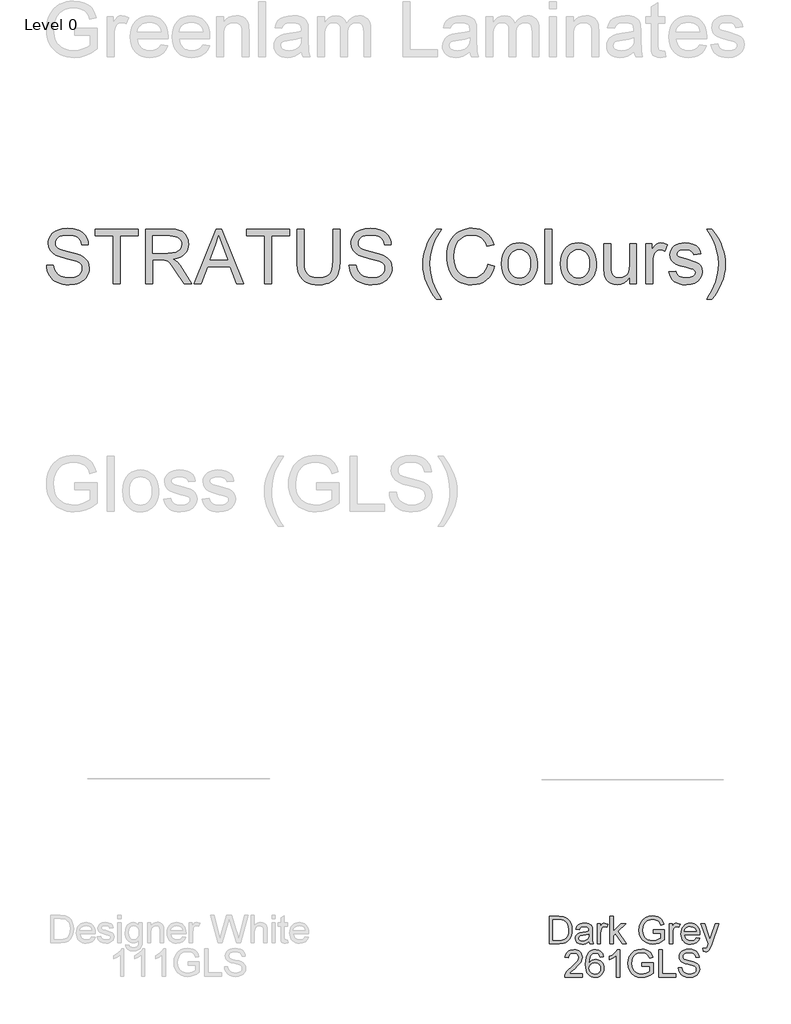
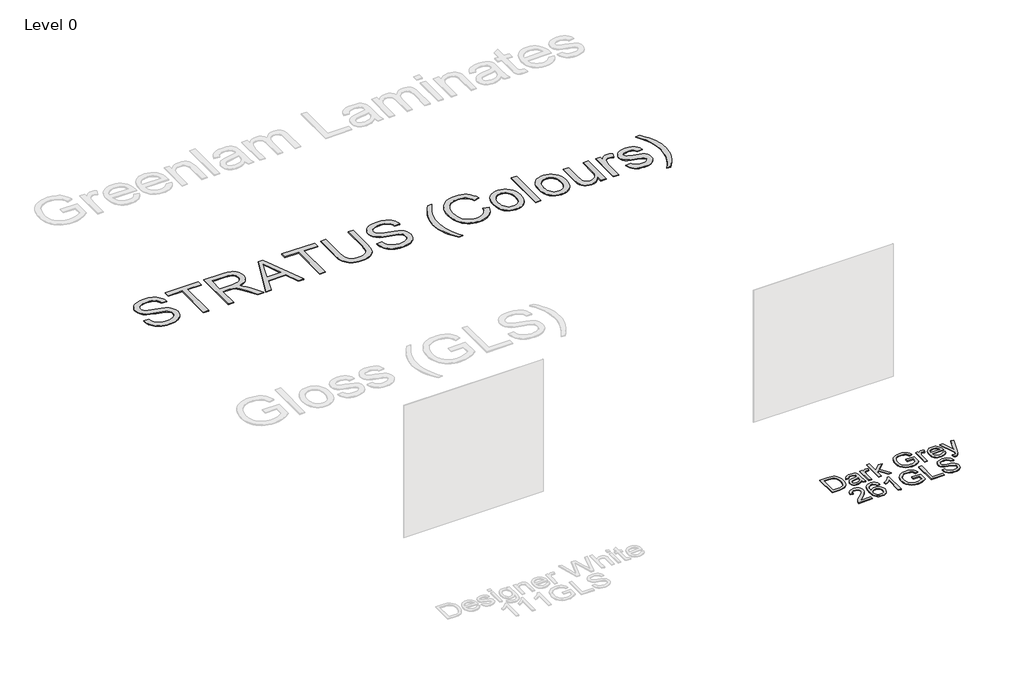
# One storey, part 2 of 3: 2 proxies.
"""IFC4 building model written with IfcOpenShell, lengths in millimetres."""

from ifc_helpers import new_model, si_unit, origin, origin_with_axes, place, context, project, spatial, polyline, outline, extrude, element, save

model = new_model("IFC4")

# Units and contexts
model_context = context("Model", 3, world=origin())
ifc_project = project(units=[si_unit("LENGTHUNIT", "METRE", prefix="MILLI")], contexts=[model_context])

# Site, building, storey
site = spatial("IfcSite", under=ifc_project)
building = spatial("IfcBuilding", under=site)
storey = spatial("IfcBuildingStorey", under=building, Name="Level 0", Elevation=0.0)

# Proxies
placement = place(None, origin())
element("IfcBuildingElementProxy", 1, Name="300mm Arial", ObjectType="300mm Arial", at=placement, inside=storey, context=model_context, shape_type="SweptSolid", body=[
    extrude(outline(polyline([(-5368.8915163, -7002.860494), (-5368.8915163, -6701.4915635), (-5264.9280644, -6701.4915635), (-5211.1437167, -6705.8325711), (-5187.1210225, -6714.2018865), (-5166.8507245, -6727.390456), (-5146.0102095, -6750.3462925), (-5131.166171, -6778.8939353), (-5122.2818208, -6812.4815615), (-5119.3203707, -6850.557348), (-5121.3253276, -6882.9033724), (-5127.3401982, -6911.3682418), (-5136.5004599, -6935.6024682), (-5147.94159, -6955.2565638), (-5161.1117654, -6970.771987), (-5175.4591632, -6982.590196), (-5191.9310795, -6991.3549846), (-5211.4748105, -6997.710146), (-5259.9248693, -7002.860494), (-5368.8915163, -7002.860494)]), holes=[polyline([(-5331.2204, -6965.1893777), (-5264.5601824, -6965.1893777), (-5236.9874269, -6963.8282143), (-5216.0733355, -6959.7447241), (-5200.2911979, -6953.1780305), (-5188.1143038, -6944.3672567), (-5175.0269019, -6928.0608873), (-5165.1952555, -6906.9536578), (-5159.0424292, -6880.9535978), (-5156.991487, -6849.9687368), (-5161.0105978, -6808.9131061), (-5173.0679302, -6778.5996297), (-5190.8826159, -6757.7775088), (-5212.1737863, -6745.1959446), (-5233.8420358, -6740.670996), (-5265.590252, -6739.1626798), (-5331.2204, -6739.1626798), (-5331.2204, -6965.1893777)])]), origin_with_axes(), (0.0, 0.0, 1.0), 10.0),
    extrude(outline(polyline([(-4930.9647892, -6974.6071568), (-4948.9634158, -6990.0398064), (-4967.4954713, -7000.1381672), (-4986.98402, -7005.7115794), (-5007.8521262, -7007.5693835), (-5039.3336279, -7003.0996173), (-5062.5561789, -6989.6903186), (-5076.8759855, -6969.3280501), (-5081.6492544, -6943.9993748), (-5079.8466327, -6928.3827841), (-5074.4387673, -6914.2009331), (-5066.0970431, -6902.0608273), (-5055.4928446, -6892.5694718), (-5029.1157055, -6880.2086368), (-4996.5213608, -6874.5432541), (-4958.0041159, -6868.5835657), (-4931.1855184, -6861.5938078), (-4930.9647892, -6853.2060983), (-4933.5583573, -6836.3938912), (-4941.3390615, -6825.3942195), (-4958.7398798, -6817.2272392), (-4982.9833033, -6814.5049125), (-5005.424105, -6816.3167313), (-5021.095878, -6821.7521878), (-5031.78285, -6831.8045633), (-5039.2692486, -6847.4671392), (-5076.9403649, -6842.7582497), (-5070.4012624, -6822.156858), (-5060.6431925, -6805.9700502), (-5046.7556472, -6793.590821), (-5027.8281185, -6784.4121652), (-5004.679144, -6778.7283884), (-4978.127261, -6776.8337961), (-4952.6606299, -6778.5076592), (-4932.4731054, -6783.5292485), (-4917.2519878, -6791.0800264), (-4906.6845775, -6800.3414556), (-4899.6764255, -6811.7917827), (-4895.1330829, -6825.9092543), (-4893.2936729, -6858.8714811), (-4893.2936729, -6905.7396473), (-4891.3806865, -6971.1858542), (-4883.8758938, -7002.860494), (-4921.5470101, -7002.860494), (-4930.9647892, -6974.6071568)]), holes=[polyline([(-4930.9647892, -6899.2649241), (-4991.7388948, -6910.8164188), (-5024.1492986, -6916.9232599), (-5038.8277902, -6926.8560738), (-5043.9781381, -6941.3506244), (-5041.1730379, -6952.5526311), (-5032.7577373, -6961.7312869), (-5018.9161772, -6967.8565221), (-4999.8322987, -6969.8982672), (-4979.598789, -6967.64499), (-4961.719724, -6960.8851583), (-4947.2251734, -6950.9247533), (-4937.1452067, -6939.069756), (-4932.6754405, -6926.8560738), (-4931.1855184, -6909.933502), (-4930.9647892, -6899.2649241)])]), origin_with_axes(), (0.0, 0.0, 1.0), 10.0),
    extrude(outline(polyline([(-4841.495888, -7002.860494), (-4841.495888, -6781.5426857), (-4808.5336612, -6781.5426857), (-4808.5336612, -6814.2841833), (-4796.3567672, -6795.3014723), (-4785.1363663, -6784.1178596), (-4773.8791773, -6778.654812), (-4761.5919186, -6776.8337961), (-4742.8299369, -6779.7400639), (-4723.7736495, -6788.4588672), (-4736.3552138, -6822.2304343), (-4749.5989656, -6816.4362929), (-4762.8427174, -6814.5049125), (-4774.0907094, -6816.3627165), (-4784.1430849, -6821.9361288), (-4792.26408, -6830.8020848), (-4797.7179306, -6842.5375205), (-4802.2980614, -6863.5803706), (-4803.8247717, -6886.5362071), (-4803.8247717, -7002.860494), (-4841.495888, -7002.860494)])), origin_with_axes(), (0.0, 0.0, 1.0), 10.0),
    extrude(outline(polyline([(-4700.2292018, -7002.860494), (-4700.2292018, -6701.4915635), (-4662.5580855, -6701.4915635), (-4662.5580855, -6863.4332178), (-4578.0923794, -6781.5426857), (-4526.0002889, -6781.5426857), (-4611.4960646, -6864.4632874), (-4521.2913994, -7002.860494), (-4565.290086, -7002.860494), (-4638.498603, -6890.6564855), (-4662.5580855, -6913.9802039), (-4662.5580855, -7002.860494), (-4700.2292018, -7002.860494)])), origin_with_axes(), (0.0, 0.0, 1.0), 10.0),
    extrude(outline(polyline([(-4224.6313585, -6885.1382555), (-4224.6313585, -6847.4671392), (-4102.2002305, -6847.4671392), (-4102.2002305, -6960.1126061), (-4131.9526868, -6980.8059684), (-4162.6432423, -6995.6500069), (-4194.1983204, -7004.5895394), (-4226.5443448, -7007.5693835), (-4268.804789, -7002.8329028), (-4307.0001372, -6988.6234608), (-4338.7299593, -6965.437698), (-4361.5938253, -6933.7722553), (-4375.4169912, -6895.7884393), (-4380.0247132, -6853.6475567), (-4375.4353853, -6811.2031715), (-4361.6674017, -6771.7202364), (-4339.2909793, -6738.6016598), (-4308.8763354, -6715.2503502), (-4271.8306185, -6701.399593), (-4229.5609772, -6696.782674), (-4198.5301309, -6699.4590155), (-4170.6262816, -6707.4880401), (-4147.1278191, -6720.2903335), (-4129.3131335, -6737.2864817), (-4116.133761, -6759.295022), (-4106.541238, -6787.134492), (-4141.2692984, -6796.9201531), (-4149.0224114, -6777.0637224), (-4158.4493875, -6762.0817281), (-4170.9205872, -6750.7877509), (-4187.8063708, -6741.9953712), (-4207.9387129, -6736.3391855), (-4230.1495884, -6734.4537903), (-4256.1496484, -6736.4863383), (-4278.378918, -6742.5839824), (-4296.7546236, -6751.9833674), (-4311.1939919, -6763.9211381), (-4330.5813731, -6792.9470275), (-4339.410541, -6821.3843058), (-4342.3535969, -6852.1024524), (-4338.8127327, -6888.1272967), (-4328.1901401, -6917.7693885), (-4310.8077158, -6940.8171955), (-4286.9873567, -6957.0591856), (-4259.1110985, -6966.6884968), (-4229.5609772, -6969.8982672), (-4203.4689467, -6967.4794431), (-4178.0207097, -6960.2229707), (-4155.9201988, -6950.2257775), (-4139.8713468, -6939.5847908), (-4139.8713468, -6885.1382555), (-4224.6313585, -6885.1382555)])), origin_with_axes(), (0.0, 0.0, 1.0), 10.0),
    extrude(outline(polyline([(-4045.693556, -7002.860494), (-4045.693556, -6781.5426857), (-4012.7313292, -6781.5426857), (-4012.7313292, -6814.2841833), (-4000.5544352, -6795.3014723), (-3989.3340344, -6784.1178596), (-3978.0768453, -6778.654812), (-3965.7895867, -6776.8337961), (-3947.0276049, -6779.7400639), (-3927.9713176, -6788.4588672), (-3940.5528818, -6822.2304343), (-3953.7966336, -6816.4362929), (-3967.0403854, -6814.5049125), (-3978.2883775, -6816.3627165), (-3988.340753, -6821.9361288), (-3996.461748, -6830.8020848), (-4001.9155986, -6842.5375205), (-4006.4957294, -6863.5803706), (-4008.0224397, -6886.5362071), (-4008.0224397, -7002.860494), (-4045.693556, -7002.860494)])), origin_with_axes(), (0.0, 0.0, 1.0), 10.0),
    extrude(outline(polyline([(-3749.4749735, -6936.9360404), (-3712.5396212, -6941.64493), (-3725.8477524, -6969.4752029), (-3747.0837405, -6990.2789297), (-3775.7693391, -7003.2467701), (-3811.4263015, -7007.5693835), (-3834.8006038, -7005.7046817), (-3855.6273232, -7000.1105761), (-3873.9064598, -6990.7870668), (-3889.6380137, -6977.7341537), (-3902.2885558, -6961.3151204), (-3911.3246573, -6941.8932503), (-3916.7463182, -6919.4685435), (-3918.5535385, -6894.0409998), (-3916.7279241, -6867.7512327), (-3911.2510809, -6844.5792656), (-3902.1230089, -6824.5250983), (-3889.3437081, -6807.5887309), (-3873.653541, -6794.133447), (-3855.7928701, -6784.5225298), (-3835.7616955, -6778.7559796), (-3813.5600171, -6776.8337961), (-3792.0734093, -6778.751381), (-3772.6423421, -6784.5041357), (-3755.2668157, -6794.0920602), (-3739.9468298, -6807.5151545), (-3727.4411413, -6824.4147337), (-3718.5085066, -6844.4321128), (-3713.1489257, -6867.5672917), (-3711.3623988, -6893.8202706), (-3711.583128, -6903.9738137), (-3880.8824222, -6903.9738137), (-3874.3617138, -6932.1719686), (-3859.2141727, -6952.902119), (-3837.3527851, -6965.6492302), (-3810.6905375, -6969.8982672), (-3790.6409688, -6967.9300985), (-3773.7551852, -6962.0255925), (-3760.0331868, -6951.8168672), (-3749.4749735, -6936.9360404)]), holes=[polyline([(-3880.8824222, -6866.3026974), (-3749.0335151, -6866.3026974), (-3754.1286807, -6846.4002814), (-3764.1166769, -6832.1632482), (-3786.079232, -6818.9194964), (-3813.7071699, -6814.5049125), (-3839.1002246, -6818.0273826), (-3860.0970895, -6828.5947929), (-3874.6928076, -6845.0667092), (-3880.8824222, -6866.3026974)])]), origin_with_axes(), (0.0, 0.0, 1.0), 10.0),
    extrude(outline(polyline([(-3673.6912825, -7087.6205057), (-3678.400172, -7051.3473409), (-3659.2703083, -7054.6582789), (-3641.3912433, -7050.5012124), (-3630.4283599, -7038.9129295), (-3620.127664, -7011.1746271), (-3617.184608, -7002.0511536), (-3697.2357302, -6781.5426857), (-3657.5044747, -6781.5426857), (-3615.0508925, -6904.4152721), (-3600.2620363, -6953.5643066), (-3585.4731801, -6910.1542312), (-3541.8423754, -6781.5426857), (-3502.4054255, -6781.5426857), (-3579.4399153, -7008.1579947), (-3599.4526959, -7057.3070293), (-3609.6982094, -7072.9971964), (-3621.3048864, -7083.8681093), (-3634.7877615, -7090.2140737), (-3650.6618696, -7092.3293952), (-3673.6912825, -7087.6205057)])), origin_with_axes(), (0.0, 0.0, 1.0), 10.0),
    extrude(outline(polyline([(-5001.5981323, -7331.1138312), (-5001.5981323, -7368.7849475), (-5199.3714929, -7368.7849475), (-5195.3247909, -7342.8124787), (-5186.0357706, -7322.5145896), (-5172.4425308, -7302.8237058), (-5152.7792382, -7282.213117), (-5125.2800591, -7259.156113), (-5084.6290986, -7223.0484951), (-5060.2385223, -7196.3954446), (-5048.0432342, -7174.7639833), (-5043.9781381, -7153.7211331), (-5047.8133079, -7134.8579838), (-5059.3188173, -7119.1770138), (-5077.0047442, -7108.6096035), (-5099.3811666, -7105.0871334), (-5122.879629, -7108.52683), (-5141.1357731, -7118.84592), (-5152.917194, -7135.2350629), (-5156.991487, -7156.8849183), (-5194.6626034, -7152.1760288), (-5185.5299328, -7115.7373171), (-5176.9835742, -7101.2013798), (-5165.7838667, -7089.1210548), (-5152.1883277, -7079.6251008), (-5136.4544747, -7072.8422765), (-5098.5718262, -7067.4160171), (-5078.3820025, -7068.9243332), (-5060.4132663, -7073.4492818), (-5044.6656176, -7080.9908627), (-5031.1390565, -7091.549076), (-5020.2750413, -7104.3421723), (-5012.5150305, -7118.5884026), (-5007.859024, -7134.2877667), (-5006.3070218, -7151.4402648), (-5007.9808849, -7169.4572855), (-5013.0024741, -7187.1616065), (-5021.9144155, -7205.1694302), (-5035.2593348, -7224.0969588), (-5056.5321112, -7246.6941104), (-5089.2276235, -7275.7108027), (-5132.5641226, -7311.9471793), (-5149.5602707, -7331.1138312), (-5001.5981323, -7331.1138312)])), origin_with_axes(), (0.0, 0.0, 1.0), 10.0),
    extrude(outline(polyline([(-4770.8625449, -7147.4671392), (-4808.5336612, -7152.1760288), (-4814.6037141, -7133.5060175), (-4822.8074826, -7120.7589064), (-4839.8956013, -7109.0050766), (-4860.5521753, -7105.0871334), (-4878.0633583, -7107.3680017), (-4894.5444717, -7114.2106069), (-4908.6987315, -7128.622384), (-4920.2594232, -7148.4604206), (-4928.0677185, -7176.5206198), (-4930.9647892, -7215.5988847), (-4915.8540363, -7197.9681401), (-4897.745045, -7185.5429257), (-4877.6494911, -7178.1760888), (-4856.5790498, -7175.7204764), (-4838.4792556, -7177.3989381), (-4821.777413, -7182.4343229), (-4806.473522, -7190.8266309), (-4792.5675826, -7202.5758621), (-4781.0114895, -7216.9830407), (-4772.7571372, -7233.349191), (-4767.8045258, -7251.6743129), (-4766.1536554, -7271.9584064), (-4769.2622582, -7298.9333537), (-4778.5880668, -7323.9401323), (-4793.3585289, -7345.1485293), (-4812.8010924, -7360.7283318), (-4836.0328404, -7370.3024607), (-4862.1708561, -7373.4938371), (-4884.6277527, -7371.3785156), (-4904.9095469, -7365.0325512), (-4923.0162389, -7354.4559438), (-4938.9478285, -7339.6486935), (-4951.9363622, -7319.9854009), (-4961.2138863, -7294.8406665), (-4966.7804007, -7264.2144904), (-4968.6359055, -7228.1068726), (-4966.5757663, -7187.6260575), (-4960.3953488, -7153.0773396), (-4950.094653, -7124.4607189), (-4935.6736787, -7101.7761954), (-4920.0432925, -7086.7436174), (-4901.9205057, -7076.0060617), (-4881.3053184, -7069.5635282), (-4858.1977306, -7067.4160171), (-4825.1435333, -7072.7319119), (-4798.6744237, -7088.6795964), (-4780.1331712, -7114.0082718), (-4770.8625449, -7147.4671392)]), holes=[polyline([(-4930.9647892, -7271.3697952), (-4928.7850884, -7288.0624407), (-4922.2459859, -7304.0009282), (-4912.0924429, -7317.7045325), (-4899.0694202, -7327.6925287), (-4883.351662, -7333.7901727), (-4865.1139121, -7335.8227207), (-4840.2542862, -7331.6104719), (-4820.7105553, -7318.9737254), (-4808.0462176, -7299.1080976), (-4803.8247717, -7273.2092052), (-4807.9910353, -7248.3495793), (-4820.4898261, -7229.3944595), (-4840.3646508, -7217.3923095), (-4866.6590165, -7213.3915928), (-4891.4818541, -7217.3923095), (-4912.2395957, -7229.3944595), (-4926.2834908, -7247.8897269), (-4930.9647892, -7271.3697952)])]), origin_with_axes(), (0.0, 0.0, 1.0), 10.0),
    extrude(outline(polyline([(-4591.9247425, -7368.7849475), (-4629.5958588, -7368.7849475), (-4629.5958588, -7133.9290818), (-4665.2804123, -7159.3497277), (-4704.9380914, -7178.3692268), (-4704.9380914, -7142.7582497), (-4675.3511819, -7126.6634124), (-4649.7190039, -7107.5151545), (-4629.5130853, -7087.1528861), (-4616.2049541, -7067.4160171), (-4591.9247425, -7067.4160171), (-4591.9247425, -7368.7849475)])), origin_with_axes(), (0.0, 0.0, 1.0), 10.0),
    extrude(outline(polyline([(-4347.0624865, -7251.0627091), (-4347.0624865, -7213.3915928), (-4224.6313585, -7213.3915928), (-4224.6313585, -7326.0370597), (-4254.3838148, -7346.7304219), (-4285.0743703, -7361.5744604), (-4316.6294484, -7370.5139929), (-4348.9754728, -7373.4938371), (-4391.235917, -7368.7573564), (-4429.4312652, -7354.5479143), (-4461.1610873, -7331.3621516), (-4484.0249533, -7299.6967088), (-4497.8481192, -7261.7128928), (-4502.4558412, -7219.5720103), (-4497.8665133, -7177.1276251), (-4484.0985297, -7137.6446899), (-4461.7221073, -7104.5261133), (-4431.3074634, -7081.1748037), (-4394.2617464, -7067.3240466), (-4351.9921052, -7062.7071275), (-4320.9612589, -7065.383469), (-4293.0574096, -7073.4124936), (-4269.5589471, -7086.214787), (-4251.7442615, -7103.2109352), (-4238.564889, -7125.2194756), (-4228.972366, -7153.0589455), (-4263.7004264, -7162.8446066), (-4271.4535394, -7142.9881759), (-4280.8805155, -7128.0061817), (-4293.3517152, -7116.7122044), (-4310.2374987, -7107.9198247), (-4330.3698409, -7102.2636391), (-4352.5807164, -7100.3782438), (-4378.5807764, -7102.4107919), (-4400.810046, -7108.5084359), (-4419.1857516, -7117.9078209), (-4433.6251199, -7129.8455916), (-4453.0125011, -7158.8714811), (-4461.841669, -7187.3087593), (-4464.7847249, -7218.0269059), (-4461.2438607, -7254.0517503), (-4450.6212681, -7283.693842), (-4433.2388438, -7306.741649), (-4409.4184846, -7322.9836391), (-4381.5422265, -7332.6129503), (-4351.9921052, -7335.8227207), (-4325.9000747, -7333.4038966), (-4300.4518377, -7326.1474243), (-4278.3513268, -7316.1502311), (-4262.3024748, -7305.5092443), (-4262.3024748, -7251.0627091), (-4347.0624865, -7251.0627091)])), origin_with_axes(), (0.0, 0.0, 1.0), 10.0),
    extrude(outline(polyline([(-4163.4157945, -7368.7849475), (-4163.4157945, -7067.4160171), (-4125.7446782, -7067.4160171), (-4125.7446782, -7331.1138312), (-3975.0602129, -7331.1138312), (-3975.0602129, -7368.7849475), (-4163.4157945, -7368.7849475)])), origin_with_axes(), (0.0, 0.0, 1.0), 10.0),
    extrude(outline(polyline([(-3946.8068757, -7265.1893777), (-3909.1357594, -7265.1893777), (-3904.813146, -7286.0942721), (-3896.9956536, -7302.8972822), (-3884.8003654, -7316.2330045), (-3867.3443648, -7326.7360355), (-3846.007209, -7333.5510494), (-3822.1684557, -7335.8227207), (-3801.1807879, -7334.1028724), (-3782.8050823, -7328.9433274), (-3767.9150585, -7320.7763471), (-3757.3844364, -7310.0341929), (-3751.1212454, -7297.700949), (-3749.0335151, -7284.7606998), (-3750.5970136, -7272.1515444), (-3755.287509, -7261.2530403), (-3764.8156527, -7251.9548229), (-3780.8920959, -7244.1465276), (-3835.7433014, -7229.7623415), (-3871.7497516, -7220.2433949), (-3894.7883616, -7211.1843008), (-3913.5411463, -7198.510766), (-3926.8308834, -7183.1516928), (-3934.7495433, -7165.4381747), (-3937.3890966, -7145.7013056), (-3934.1241439, -7123.637583), (-3924.3292858, -7103.0637824), (-3908.2620397, -7085.6261758), (-3886.1799229, -7072.9710352), (-3859.6740252, -7065.2731044), (-3830.335436, -7062.7071275), (-3798.5504317, -7065.3926661), (-3770.7385528, -7073.4492818), (-3747.8930809, -7086.7114277), (-3731.0072973, -7105.013557), (-3720.3203254, -7127.2152354), (-3716.0712883, -7152.1760288), (-3753.7424046, -7152.1760288), (-3760.6585862, -7129.6984389), (-3775.0795604, -7113.4748429), (-3797.6123326, -7103.6523936), (-3828.8639081, -7100.3782438), (-3860.8512475, -7103.6156054), (-3882.7954086, -7113.3276901), (-3895.4873374, -7127.6199056), (-3899.7179803, -7144.5976597), (-3896.7197421, -7159.0738162), (-3887.7250273, -7170.7172813), (-3866.461448, -7181.1283418), (-3826.2151577, -7191.7601314), (-3784.6812804, -7201.8584922), (-3759.5549402, -7210.669266), (-3738.0798287, -7224.3360821), (-3723.0978344, -7241.2034716), (-3714.2962577, -7261.0874934), (-3711.3623988, -7283.8042066), (-3714.7377161, -7307.0267576), (-3724.863668, -7328.869751), (-3741.3263873, -7347.668521), (-3763.7120067, -7361.7584014), (-3790.6317717, -7370.5599781), (-3820.6969278, -7373.4938371), (-3857.6046889, -7370.3300519), (-3887.9825447, -7360.8386964), (-3912.1799829, -7344.9829824), (-3930.5464915, -7322.7261217), (-3942.3371095, -7295.6132187), (-3946.8068757, -7265.1893777)])), origin_with_axes(), (0.0, 0.0, 1.0), 10.0),
])
element("IfcBuildingElementProxy", 2, Name="600mm Arial", ObjectType="600mm Arial", at=placement, inside=storey, context=model_context, shape_type="SweptSolid", body=[
    extrude(outline(polyline([(-10905.7165225, 467.3190924), (-10830.3742899, 467.3190924), (-10821.729063, 425.5093036), (-10806.0940782, 391.9032833), (-10781.7035019, 365.2318387), (-10746.7915006, 344.2257768), (-10704.1171891, 330.5957488), (-10656.4396825, 326.0524062), (-10614.4643469, 329.4921029), (-10577.7129356, 339.8111928), (-10547.9328881, 356.1451534), (-10526.8716438, 377.6294619), (-10514.3452619, 402.2959497), (-10510.1698013, 428.1764481), (-10513.2967982, 453.3947588), (-10522.6777891, 475.1917671), (-10541.7340764, 493.7882019), (-10573.8869628, 509.4047926), (-10683.5893738, 538.1731646), (-10755.6022743, 557.2110579), (-10801.6794942, 575.3292461), (-10839.1850636, 600.6763156), (-10865.7645378, 631.3944622), (-10881.6018577, 666.8214983), (-10886.8809643, 706.2952364), (-10885.248488, 728.7314396), (-10880.3510589, 750.4226817), (-10872.1886771, 771.3689628), (-10860.7613427, 791.5702829), (-10846.1978142, 810.203506), (-10828.6268504, 826.445496), (-10808.0484513, 840.2962532), (-10784.4626169, 851.7557773), (-10731.4508214, 867.1516388), (-10672.7736431, 872.2835926), (-10609.2036344, 866.9125155), (-10553.5798767, 850.7992841), (-10529.2444827, 838.797134), (-10507.8889329, 824.2749923), (-10489.5132272, 807.2328588), (-10474.1173657, 787.6707338), (-10461.82091, 766.1588341), (-10452.7434218, 743.2673769), (-10446.884901, 718.9963623), (-10444.2453477, 693.3457902), (-10519.5875803, 693.3457902), (-10524.6275637, 717.3868786), (-10533.4199434, 738.30097), (-10545.9647194, 756.0880645), (-10562.2618918, 770.748162), (-10582.6149632, 782.2076861), (-10607.3274362, 790.3930605), (-10636.3993109, 795.3042852), (-10669.8305872, 796.94136), (-10704.3287213, 795.3226793), (-10733.8052661, 790.4666369), (-10758.2602218, 782.373233), (-10777.6935881, 771.0424676), (-10792.5008385, 757.4216367), (-10803.0774458, 742.4580365), (-10809.4234102, 726.1516671), (-10811.5387317, 708.5025284), (-10810.0396126, 693.318199), (-10805.5422552, 679.5502154), (-10798.0466595, 667.1985774), (-10787.5528256, 656.2632851), (-10771.034924, 645.9074069), (-10745.025667, 635.4411642), (-10664.5330864, 614.1775848), (-10581.4653319, 593.9808633), (-10531.2126514, 576.3593157), (-10488.2624284, 549.0256835), (-10471.6571549, 532.9584373), (-10458.2984399, 515.2909045), (-10448.0299337, 496.1150555), (-10440.6952865, 475.5228608), (-10434.8275686, 430.0894344), (-10436.5152273, 406.5219941), (-10441.5782033, 383.6443326), (-10450.0164965, 361.4564497), (-10461.8301071, 339.9583456), (-10476.8121013, 319.9823533), (-10494.7555457, 302.3608057), (-10515.66044, 287.0937029), (-10539.5267845, 274.1810449), (-10565.6602017, 263.9125387), (-10593.3663145, 256.5778914), (-10653.4966266, 250.7101736), (-10692.0368641, 252.2920662), (-10727.3121489, 257.0377439), (-10759.322481, 264.9472068), (-10788.0678604, 276.0204549), (-10813.7230311, 290.2758822), (-10836.4627369, 307.7318828), (-10856.2869779, 328.3884569), (-10873.1957541, 352.2456043), (-10886.816585, 378.5307728), (-10896.77699, 406.4714104), (-10903.0769692, 436.0675169), (-10905.7165225, 467.3190924)])), origin_with_axes(), (0.0, 0.0, 1.0), 10.0),
    extrude(outline(polyline([(-10171.1297545, 260.1279527), (-10171.1297545, 787.523581), (-10368.9031151, 787.523581), (-10368.9031151, 862.8658136), (-9898.0141613, 862.8658136), (-9898.0141613, 787.523581), (-10095.7875219, 787.523581), (-10095.7875219, 260.1279527), (-10171.1297545, 260.1279527)])), origin_with_axes(), (0.0, 0.0, 1.0), 10.0),
    extrude(outline(polyline([(-9813.2541496, 260.1279527), (-9813.2541496, 862.8658136), (-9553.529461, 862.8658136), (-9483.7238524, 858.8007175), (-9432.937743, 846.6054294), (-9413.3388297, 836.9117388), (-9395.8184497, 824.0910513), (-9380.3766029, 808.1433668), (-9367.0132894, 789.0686853), (-9356.2297485, 767.892478), (-9348.5272192, 745.6402158), (-9343.9057016, 722.3118988), (-9342.3651958, 697.9075269), (-9344.9173771, 666.950257), (-9352.5739211, 638.5313729), (-9365.3348278, 612.6508745), (-9383.2000972, 589.308762), (-9406.3996556, 569.2499962), (-9435.1634291, 553.2195382), (-9469.4914177, 541.2173881), (-9509.3836216, 533.2435459), (-9484.5515869, 517.0199499), (-9466.5621573, 501.0170831), (-9435.6968579, 464.4128246), (-9405.4937461, 423.4675585), (-9304.9883851, 260.1279527), (-9392.5442999, 260.1279527), (-9470.9767413, 385.0606782), (-9527.6305685, 467.7605507), (-9548.6918128, 491.8752155), (-9567.4354004, 506.8296186), (-9603.2671067, 521.1770164), (-9646.9714878, 523.8257668), (-9737.911917, 523.8257668), (-9737.911917, 260.1279527), (-9813.2541496, 260.1279527)]), holes=[polyline([(-9737.911917, 599.1679994), (-9569.2748104, 599.1679994), (-9520.8431457, 601.8351439), (-9483.2639999, 609.8365773), (-9454.9738745, 623.7057285), (-9434.409271, 643.9760264), (-9421.882889, 668.4953614), (-9417.7074284, 695.1116238), (-9419.6985897, 714.3794433), (-9425.6720736, 731.8630351), (-9435.6278801, 747.5623992), (-9449.5660092, 761.4775357), (-9467.8083576, 772.8726805), (-9490.6768221, 781.0120696), (-9518.1714027, 785.8957031), (-9550.2920994, 787.523581), (-9737.911917, 787.523581), (-9737.911917, 599.1679994)])]), origin_with_axes(), (0.0, 0.0, 1.0), 10.0),
    extrude(outline(polyline([(-9280.7081734, 260.1279527), (-9040.1133485, 862.8658136), (-8975.9547286, 862.8658136), (-8735.3599037, 260.1279527), (-8814.9695675, 260.1279527), (-8883.9842298, 448.4835342), (-9132.2310001, 448.4835342), (-9201.0985096, 260.1279527), (-9280.7081734, 260.1279527)]), holes=[polyline([(-9104.5662741, 523.8257668), (-8911.501803, 523.8257668), (-8965.8011855, 672.0086345), (-9008.0340386, 787.523581), (-9045.5580021, 684.9580807), (-9104.5662741, 523.8257668)])]), origin_with_axes(), (0.0, 0.0, 1.0), 10.0),
    extrude(outline(polyline([(-8504.182858, 260.1279527), (-8504.182858, 787.523581), (-8701.9562186, 787.523581), (-8701.9562186, 862.8658136), (-8231.0672647, 862.8658136), (-8231.0672647, 787.523581), (-8428.8406253, 787.523581), (-8428.8406253, 260.1279527), (-8504.182858, 260.1279527)])), origin_with_axes(), (0.0, 0.0, 1.0), 10.0),
    extrude(outline(polyline([(-7750.7605318, 862.8658136), (-7675.4182992, 862.8658136), (-7675.4182992, 515.1437517), (-7680.531859, 433.7130721), (-7686.9238086, 400.0196799), (-7695.8725382, 371.007586), (-7708.1505997, 345.5777431), (-7724.5305456, 322.6311037), (-7745.0123757, 302.1676677), (-7769.59609, 284.1874352), (-7798.3092797, 269.5411332), (-7831.179536, 259.079489), (-7868.2068588, 252.8025024), (-7909.3912482, 250.7101736), (-7949.5593635, 252.5311895), (-7985.8923091, 257.9942371), (-8018.3900848, 267.0993165), (-8047.0526907, 279.8464276), (-8071.8847254, 296.047031), (-8092.8907873, 315.512587), (-8110.0708765, 338.2430958), (-8123.4249929, 364.2385573), (-8133.4359817, 394.3910853), (-8140.586688, 429.5927937), (-8144.8771118, 469.8436825), (-8146.307253, 515.1437517), (-8146.307253, 862.8658136), (-8070.9650204, 862.8658136), (-8070.9650204, 517.7925021), (-8067.2494123, 450.0838209), (-8056.1025878, 402.9397432), (-8047.3377993, 385.5619175), (-8035.9058663, 370.2902161), (-8021.8067888, 357.1246392), (-8005.0405669, 346.0651867), (-7964.7942766, 331.0556013), (-7916.4545825, 326.0524062), (-7874.9299023, 328.5264126), (-7839.8247629, 335.9484319), (-7811.1391643, 348.318464), (-7788.8731065, 365.6365089), (-7772.1988551, 389.990297), (-7760.2886755, 423.4675585), (-7753.1425678, 466.0682936), (-7750.7605318, 517.7925021), (-7750.7605318, 862.8658136)])), origin_with_axes(), (0.0, 0.0, 1.0), 10.0),
    extrude(outline(polyline([(-7571.8227294, 467.3190924), (-7496.4804968, 467.3190924), (-7487.8352699, 425.5093036), (-7472.2002851, 391.9032833), (-7447.8097088, 365.2318387), (-7412.8977075, 344.2257768), (-7370.223396, 330.5957488), (-7322.5458894, 326.0524062), (-7280.5705538, 329.4921029), (-7243.8191425, 339.8111928), (-7214.039095, 356.1451534), (-7192.9778507, 377.6294619), (-7180.4514688, 402.2959497), (-7176.2760082, 428.1764481), (-7179.4030051, 453.3947588), (-7188.783996, 475.1917671), (-7207.8402834, 493.7882019), (-7239.9931697, 509.4047926), (-7349.6955807, 538.1731646), (-7421.7084812, 557.2110579), (-7467.7857011, 575.3292461), (-7505.2912706, 600.6763156), (-7531.8707447, 631.3944622), (-7547.7080646, 666.8214983), (-7552.9871712, 706.2952364), (-7551.3546949, 728.7314396), (-7546.4572658, 750.4226817), (-7538.294884, 771.3689628), (-7526.8675496, 791.5702829), (-7512.3040211, 810.203506), (-7494.7330573, 826.445496), (-7474.1546582, 840.2962532), (-7450.5688238, 851.7557773), (-7397.5570283, 867.1516388), (-7338.87985, 872.2835926), (-7275.3098413, 866.9125155), (-7219.6860836, 850.7992841), (-7195.3506896, 838.797134), (-7173.9951398, 824.2749923), (-7155.6194341, 807.2328588), (-7140.2235726, 787.6707338), (-7127.927117, 766.1588341), (-7118.8496287, 743.2673769), (-7112.9911079, 718.9963623), (-7110.3515546, 693.3457902), (-7185.6937872, 693.3457902), (-7190.7337706, 717.3868786), (-7199.5261503, 738.30097), (-7212.0709263, 756.0880645), (-7228.3680987, 770.748162), (-7248.7211701, 782.2076861), (-7273.4336431, 790.3930605), (-7302.5055178, 795.3042852), (-7335.9367941, 796.94136), (-7370.4349282, 795.3226793), (-7399.911473, 790.4666369), (-7424.3664287, 782.373233), (-7443.7997951, 771.0424676), (-7458.6070454, 757.4216367), (-7469.1836527, 742.4580365), (-7475.5296171, 726.1516671), (-7477.6449386, 708.5025284), (-7476.1458195, 693.318199), (-7471.6484621, 679.5502154), (-7464.1528664, 667.1985774), (-7453.6590325, 656.2632851), (-7437.1411309, 645.9074069), (-7411.1318739, 635.4411642), (-7330.6392933, 614.1775848), (-7247.5715388, 593.9808633), (-7197.3188583, 576.3593157), (-7154.3686354, 549.0256835), (-7137.7633618, 532.9584373), (-7124.4046468, 515.2909045), (-7114.1361407, 496.1150555), (-7106.8014934, 475.5228608), (-7100.9337756, 430.0894344), (-7102.6214342, 406.5219941), (-7107.6844102, 383.6443326), (-7116.1227034, 361.4564497), (-7127.936314, 339.9583456), (-7142.9183083, 319.9823533), (-7160.8617526, 302.3608057), (-7181.7666469, 287.0937029), (-7205.6329914, 274.1810449), (-7231.7664086, 263.9125387), (-7259.4725214, 256.5778914), (-7319.6028335, 250.7101736), (-7358.143071, 252.2920662), (-7393.4183558, 257.0377439), (-7425.4286879, 264.9472068), (-7454.1740673, 276.0204549), (-7479.829238, 290.2758822), (-7502.5689438, 307.7318828), (-7522.3931848, 328.3884569), (-7539.301961, 352.2456043), (-7552.9227919, 378.5307728), (-7562.8831969, 406.4714104), (-7569.1831761, 436.0675169), (-7571.8227294, 467.3190924)])), origin_with_axes(), (0.0, 0.0, 1.0), 10.0),
    extrude(outline(polyline([(-6611.2092636, 90.6079293), (-6641.6239075, 129.9621057), (-6669.5921362, 172.5352496), (-6695.1139496, 218.327361), (-6718.1893478, 267.3384398), (-6737.3100145, 318.4188548), (-6750.9676335, 370.4189748), (-6759.162205, 423.3387998), (-6761.8937288, 477.1783298), (-6759.8519837, 524.4971515), (-6753.7267485, 570.8042976), (-6743.5180231, 616.0997683), (-6729.2258076, 660.3835634), (-6707.5023758, 711.1696729), (-6680.5918079, 761.8454177), (-6648.4941038, 812.4107979), (-6611.2092636, 862.8658136), (-6554.7025891, 862.8658136), (-6599.0323695, 791.2391891), (-6625.1887794, 743.5248943), (-6649.2482619, 686.8710671), (-6667.5687852, 627.862795), (-6681.8058184, 552.4837742), (-6686.5514962, 476.7368714), (-6684.491357, 428.438564), (-6678.3109395, 380.1494536), (-6668.0102436, 331.8695403), (-6653.5892694, 283.598824), (-6635.0480169, 235.3373047), (-6612.386486, 187.0849825), (-6585.6046767, 138.8418574), (-6554.7025891, 90.6079293), (-6611.2092636, 90.6079293)])), origin_with_axes(), (0.0, 0.0, 1.0), 10.0),
    extrude(outline(polyline([(-6046.142519, 474.3824267), (-5970.8002864, 454.9582573), (-5985.7087042, 408.1038867), (-6005.5651349, 367.1632192), (-6030.3695784, 332.1362547), (-6060.1220348, 303.0229933), (-6094.1511194, 280.1361347), (-6131.7854475, 263.7883785), (-6173.0250191, 253.9797248), (-6217.8698343, 250.7101736), (-6263.813697, 253.18418), (-6305.2602023, 260.6061993), (-6342.2093502, 272.9762314), (-6374.6611407, 290.2942763), (-6403.0616307, 312.3028166), (-6427.8568772, 338.744335), (-6449.0468801, 369.6188315), (-6466.6316395, 404.926306), (-6480.4410099, 443.1400482), (-6490.3048459, 482.733348), (-6496.2231475, 523.7062052), (-6498.1959147, 566.0586199), (-6495.9656301, 611.5012433), (-6489.2747763, 653.9456285), (-6478.1233533, 693.3917754), (-6462.5113611, 729.8396841), (-6442.7882877, 762.6869478), (-6419.3036208, 791.3311596), (-6392.0573605, 815.7723197), (-6361.0495069, 836.0104279), (-6327.333122, 851.8799375), (-6291.9612682, 863.2153015), (-6254.9339453, 870.0165199), (-6216.2511536, 872.2835926), (-6173.1583763, 869.3497337), (-6133.6432515, 860.548157), (-6097.7057791, 845.8788624), (-6065.3459591, 825.3418501), (-6037.0972204, 799.4797458), (-6013.4929919, 768.8351756), (-5994.5332736, 733.4081395), (-5980.2180654, 693.1986374), (-6055.5602981, 675.245996), (-6067.4244924, 704.8742922), (-6081.6799197, 730.189172), (-6098.32658, 751.1906354), (-6117.3644732, 767.8786824), (-6138.9039641, 780.5936039), (-6163.0554171, 789.6756906), (-6189.8188322, 795.1249427), (-6219.1942095, 796.94136), (-6252.9933678, 794.9272061), (-6283.9046525, 788.8847443), (-6311.9280634, 778.8139747), (-6337.0636008, 764.7148973), (-6358.9939662, 747.2221084), (-6377.4018615, 726.9702046), (-6392.2872868, 703.9591858), (-6403.6502419, 678.189052), (-6418.052822, 623.0435409), (-6422.853682, 566.2057727), (-6417.1699052, 496.6024992), (-6410.0651842, 465.3325296), (-6400.1185747, 436.4170048), (-6387.1691285, 410.4307403), (-6371.0558971, 387.9485519), (-6351.7788806, 368.9704395), (-6329.3380789, 353.496403), (-6304.8233424, 341.4896544), (-6279.3245216, 332.9134054), (-6252.8416165, 327.767656), (-6225.374627, 326.0524062), (-6192.6193339, 328.3884569), (-6162.4852, 335.3966089), (-6134.9722252, 347.0768622), (-6110.0804097, 363.4292169), (-6088.3983647, 384.3800965), (-6070.5147012, 409.8559247), (-6056.4294193, 439.8567014), (-6046.142519, 474.3824267)])), origin_with_axes(), (0.0, 0.0, 1.0), 10.0),
    extrude(outline(polyline([(-5895.4580538, 481.445761), (-5891.3837607, 538.7709729), (-5879.1608814, 588.1683278), (-5858.7894159, 629.6378257), (-5830.2693642, 663.1794666), (-5801.5561745, 684.6177899), (-5769.8631406, 699.9308779), (-5735.1902626, 709.1187307), (-5697.5375404, 712.1813483), (-5655.9714734, 708.4519446), (-5618.3877291, 697.2637334), (-5584.7863074, 678.6167148), (-5555.1672082, 652.5108887), (-5530.9927626, 619.829172), (-5513.7253015, 581.4544814), (-5503.3648248, 537.3868169), (-5499.9113325, 487.6261785), (-5501.4380428, 447.2971148), (-5506.0181737, 411.5113937), (-5513.6517251, 380.2690152), (-5524.338697, 353.5699794), (-5537.9457323, 330.5083769), (-5554.3394737, 310.1782981), (-5573.5199213, 292.5797432), (-5595.4870749, 277.712712), (-5619.385609, 265.8991015), (-5644.360198, 257.4608082), (-5670.4108417, 252.3978322), (-5697.5375404, 250.7101736), (-5739.7106126, 254.4257817), (-5777.6438448, 265.5726062), (-5811.337237, 284.150647), (-5840.7907893, 310.159904), (-5864.7077175, 343.158919), (-5881.7912376, 382.7062335), (-5892.0413497, 428.8018475), (-5895.4580538, 481.445761)]), holes=[polyline([(-5820.1158211, 481.5929138), (-5817.9361203, 445.0484361), (-5811.3970179, 413.405986), (-5800.4985138, 386.6655634), (-5785.240608, 364.8271685), (-5766.6809613, 347.86321), (-5745.8772345, 335.7460968), (-5722.8294275, 328.4758289), (-5697.5375404, 326.0524062), (-5672.3744119, 328.4896244), (-5649.4185754, 335.8012791), (-5628.6700309, 347.9873702), (-5610.1287783, 365.0478977), (-5594.8708725, 387.1024233), (-5583.9723684, 414.2705087), (-5577.433266, 446.5521537), (-5575.2535652, 483.9473585), (-5577.4470616, 519.3330079), (-5584.0275507, 550.1477236), (-5594.9950327, 576.3915054), (-5610.3495075, 598.0643534), (-5628.9597379, 615.0283119), (-5649.6944869, 627.1454252), (-5672.5537544, 634.4156931), (-5697.5375404, 636.8391157), (-5722.8294275, 634.4248901), (-5745.8772345, 627.1822134), (-5766.6809613, 615.1110854), (-5785.240608, 598.2115062), (-5800.4985138, 576.4374906), (-5811.3970179, 549.7430534), (-5817.9361203, 518.1281944), (-5820.1158211, 481.5929138)])]), origin_with_axes(), (0.0, 0.0, 1.0), 10.0),
    extrude(outline(polyline([(-5415.1513209, 260.1279527), (-5415.1513209, 862.8658136), (-5339.8090882, 862.8658136), (-5339.8090882, 260.1279527), (-5415.1513209, 260.1279527)])), origin_with_axes(), (0.0, 0.0, 1.0), 10.0),
    extrude(outline(polyline([(-5245.6312975, 481.445761), (-5241.5570044, 538.7709729), (-5229.3341251, 588.1683278), (-5208.9626596, 629.6378257), (-5180.4426079, 663.1794666), (-5151.7294182, 684.6177899), (-5120.0363843, 699.9308779), (-5085.3635063, 709.1187307), (-5047.7107841, 712.1813483), (-5006.1447171, 708.4519446), (-4968.5609728, 697.2637334), (-4934.9595511, 678.6167148), (-4905.3404519, 652.5108887), (-4881.1660063, 619.829172), (-4863.8985452, 581.4544814), (-4853.5380685, 537.3868169), (-4850.0845763, 487.6261785), (-4851.6112865, 447.2971148), (-4856.1914174, 411.5113937), (-4863.8249688, 380.2690152), (-4874.5119407, 353.5699794), (-4888.118976, 330.5083769), (-4904.5127175, 310.1782981), (-4923.693165, 292.5797432), (-4945.6603186, 277.712712), (-4969.5588527, 265.8991015), (-4994.5334417, 257.4608082), (-5020.5840855, 252.3978322), (-5047.7107841, 250.7101736), (-5089.8838563, 254.4257817), (-5127.8170885, 265.5726062), (-5161.5104808, 284.150647), (-5190.964033, 310.159904), (-5214.8809612, 343.158919), (-5231.9644814, 382.7062335), (-5242.2145934, 428.8018475), (-5245.6312975, 481.445761)]), holes=[polyline([(-5170.2890649, 481.5929138), (-5168.109364, 445.0484361), (-5161.5702616, 413.405986), (-5150.6717575, 386.6655634), (-5135.4138517, 364.8271685), (-5116.8542051, 347.86321), (-5096.0504782, 335.7460968), (-5073.0026712, 328.4758289), (-5047.7107841, 326.0524062), (-5022.5476556, 328.4896244), (-4999.5918191, 335.8012791), (-4978.8432746, 347.9873702), (-4960.302022, 365.0478977), (-4945.0441163, 387.1024233), (-4934.1456122, 414.2705087), (-4927.6065097, 446.5521537), (-4925.4268089, 483.9473585), (-4927.6203053, 519.3330079), (-4934.2007945, 550.1477236), (-4945.1682764, 576.3915054), (-4960.5227512, 598.0643534), (-4979.1329816, 615.0283119), (-4999.8677306, 627.1454252), (-5022.7269981, 634.4156931), (-5047.7107841, 636.8391157), (-5073.0026712, 634.4248901), (-5096.0504782, 627.1822134), (-5116.8542051, 615.1110854), (-5135.4138517, 598.2115062), (-5150.6717575, 576.4374906), (-5161.5702616, 549.7430534), (-5168.109364, 518.1281944), (-5170.2890649, 481.5929138)])]), origin_with_axes(), (0.0, 0.0, 1.0), 10.0),
    extrude(outline(polyline([(-4482.7911923, 260.1279527), (-4482.7911923, 336.2059493), (-4510.0512481, 298.8015474), (-4541.7994643, 272.0841175), (-4578.0358408, 256.0536596), (-4618.7603777, 250.7101736), (-4655.4566067, 254.4625699), (-4689.61445, 265.719759), (-4718.2724574, 282.6423308), (-4738.4691789, 303.3908753), (-4752.0624186, 328.590792), (-4760.9099806, 358.8674802), (-4765.3245646, 428.9122121), (-4765.3245646, 702.7635693), (-4689.982332, 702.7635693), (-4689.982332, 464.3760364), (-4688.8418978, 416.6985298), (-4685.4205952, 387.5622758), (-4674.4393177, 361.9392948), (-4655.6221536, 342.4599432), (-4630.2199018, 330.1542905), (-4599.4833612, 326.0524062), (-4566.9809869, 330.246261), (-4536.57554, 342.8278252), (-4511.504382, 362.6382706), (-4495.0048745, 388.518769), (-4485.8446128, 423.9641992), (-4482.7911923, 472.4694403), (-4482.7911923, 702.7635693), (-4407.4489597, 702.7635693), (-4407.4489597, 260.1279527), (-4482.7911923, 260.1279527)])), origin_with_axes(), (0.0, 0.0, 1.0), 10.0),
    extrude(outline(polyline([(-4303.8533898, 260.1279527), (-4303.8533898, 702.7635693), (-4237.9289363, 702.7635693), (-4237.9289363, 637.2805741), (-4213.5751482, 675.245996), (-4191.1343465, 697.6132213), (-4168.6199684, 708.5393166), (-4144.0454511, 712.1813483), (-4106.5214876, 706.3688128), (-4068.4089129, 688.9312062), (-4093.5720414, 621.3880719), (-4120.059545, 632.9763548), (-4146.5470487, 636.8391157), (-4169.0430327, 633.1235076), (-4189.1477837, 621.9766831), (-4205.3897738, 604.244771), (-4216.297475, 580.7738997), (-4225.4577367, 538.6881994), (-4228.5111572, 492.7765264), (-4228.5111572, 260.1279527), (-4303.8533898, 260.1279527)])), origin_with_axes(), (0.0, 0.0, 1.0), 10.0),
    extrude(outline(polyline([(-4049.5733548, 391.9768597), (-3974.2311221, 401.3946388), (-3969.6785825, 384.2145496), (-3962.3485337, 369.168176), (-3952.2409759, 356.255518), (-3939.355909, 345.4765756), (-3923.6565449, 336.9785015), (-3905.1060953, 330.9084485), (-3859.4519397, 326.0524062), (-3814.349607, 330.5037783), (-3796.82003, 336.0679935), (-3782.6381791, 343.8578948), (-3763.8761973, 363.2084877), (-3759.1857019, 374.0426125), (-3757.6222034, 385.6492894), (-3759.1948989, 395.8212266), (-3763.9129855, 404.8527296), (-3782.7853319, 419.494433), (-3811.0018809, 429.0593649), (-3860.3348564, 440.9787415), (-3929.0920013, 460.8627633), (-3973.7896638, 477.8405174), (-4002.5028535, 496.3633759), (-4023.3065803, 520.8827109), (-4035.9433268, 549.8350239), (-4040.1555757, 581.6568165), (-4036.7710613, 610.8482528), (-4026.6175183, 637.7956089), (-4010.6146515, 661.4320271), (-3989.6821659, 680.6906496), (-3968.8784391, 692.8123613), (-3941.7839302, 702.9842985), (-3910.4587783, 709.8820859), (-3876.9631226, 712.1813483), (-3827.9244527, 708.4841343), (-3785.2869294, 697.3924921), (-3751.0003275, 679.9916738), (-3727.0144214, 657.3669311), (-3711.1219192, 627.844401), (-3701.1155289, 589.7502203), (-3776.4577615, 580.3324413), (-3785.9675111, 604.0424359), (-3804.7846752, 621.9031067), (-3833.0931947, 633.1051135), (-3871.0770107, 636.8391157), (-3914.3399333, 633.2706604), (-3943.1818818, 622.5652943), (-3959.4054777, 607.1142505), (-3964.8133431, 589.308762), (-3962.5692629, 577.7204791), (-3955.8370224, 567.382995), (-3944.3223159, 558.149157), (-3927.730838, 550.7547289), (-3862.836454, 534.7150739), (-3752.2511263, 499.2512495), (-3723.0412958, 482.2918896), (-3700.8947997, 459.0785357), (-3686.933678, 429.5376115), (-3682.2799708, 393.5955405), (-3687.7430184, 356.439459), (-3704.1321613, 321.4906695), (-3730.822, 291.4898928), (-3767.1871353, 269.1778498), (-3811.1122455, 255.3270926), (-3860.4820092, 250.7101736), (-3901.0318022, 252.9358597), (-3936.4496412, 259.6129179), (-3966.7355265, 270.7413482), (-3991.8894579, 286.3211507), (-4012.4356673, 306.278749), (-4028.8983866, 330.5405665), (-4041.2776158, 359.1066035), (-4049.5733548, 391.9768597)])), origin_with_axes(), (0.0, 0.0, 1.0), 10.0),
    extrude(outline(polyline([(-3578.6844009, 90.6079293), (-3635.1910754, 90.6079293), (-3604.2889878, 138.8418574), (-3577.5071785, 187.0849825), (-3554.8456476, 235.3373047), (-3536.3043951, 283.598824), (-3521.8834209, 331.8695403), (-3511.582725, 380.1494536), (-3505.4023075, 428.438564), (-3503.3421683, 476.7368714), (-3508.0878461, 551.9319512), (-3522.3248793, 626.5384199), (-3540.3143088, 685.6570565), (-3564.2634267, 742.3476719), (-3590.5302012, 790.5770015), (-3635.1910754, 862.8658136), (-3578.6844009, 862.8658136), (-3541.3995607, 812.4107979), (-3509.3018566, 761.8454177), (-3482.3912887, 711.1696729), (-3460.6678569, 660.3835634), (-3446.3756414, 616.0997683), (-3436.166916, 570.8042976), (-3430.0416808, 524.4971515), (-3427.9999357, 477.1783298), (-3430.7452551, 423.3387998), (-3438.9812133, 370.4189748), (-3452.7078102, 318.4188548), (-3471.9250459, 267.3384398), (-3495.069422, 218.327361), (-3520.5774398, 172.5352496), (-3548.4490995, 129.9621057), (-3578.6844009, 90.6079293)])), origin_with_axes(), (0.0, 0.0, 1.0), 10.0),
])

save(model, "model.ifc")
